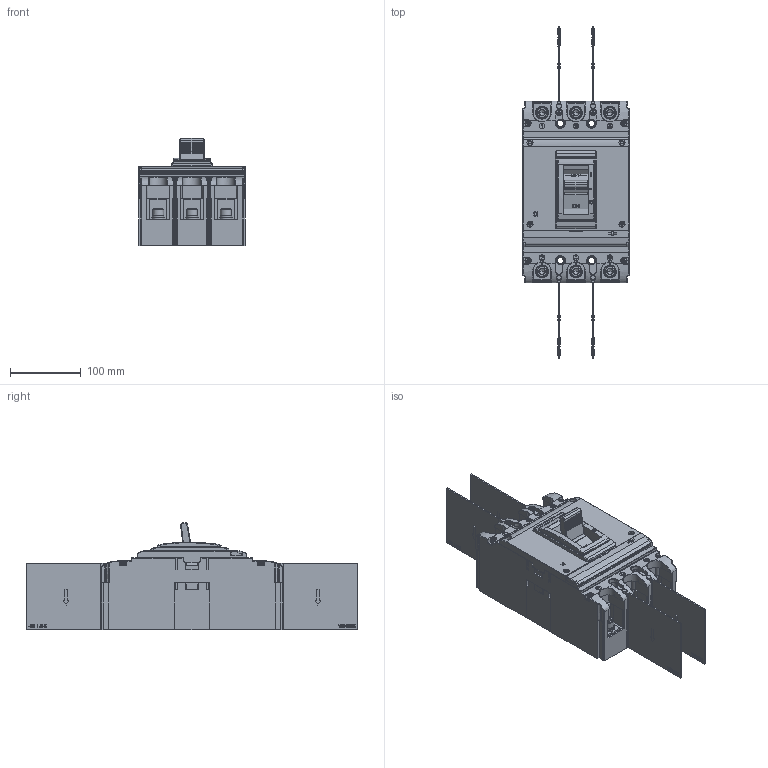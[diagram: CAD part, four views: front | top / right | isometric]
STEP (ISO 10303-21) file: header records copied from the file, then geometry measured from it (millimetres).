
FILE_DESCRIPTION ((), '1');
FILE_NAME ('C:\Users\volga\OneDrive\Рабочий стол\3д\Новая папка\TGM1NE-400M 3300 3P.stp', '2025-02-16T19:00:59', ('Unknown'), ('Unknown'), 'HarmonyWare STEP v2.1.4', 'HarmonyWare Translators', '');
FILE_SCHEMA (('CONFIG_CONTROL_DESIGN'));
Length unit declared in the file: millimetre
Products named in the file (3): 2TZD_256_6058_1_SW0001
Assembly tree (2 placements, depth 2):
  (unnamed)
    2TZD_256_6058_1_SW0001
    2TZD_256_6058_1_SW0001
Bounding box: 150 x 469 x 151.26 mm (x, y, z)
Volume: 1526173.3 mm3; surface area: 709181.3 mm2
Topology: 2 solids, 2 shells, 6845 faces, 18633 edges, 11958 vertices
Faces by surface type: bspline 6845
Entity records: 244095 total; most frequent: CARTESIAN_POINT 134174, ORIENTED_EDGE 37226, EDGE_CURVE 18613, B_SPLINE_CURVE_WITH_KNOTS 15394, VERTEX_POINT 11958, EDGE_LOOP 7281, FACE_OUTER_BOUND 6845, ADVANCED_FACE 6845
